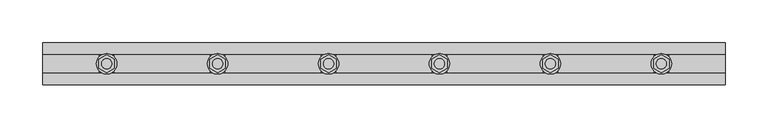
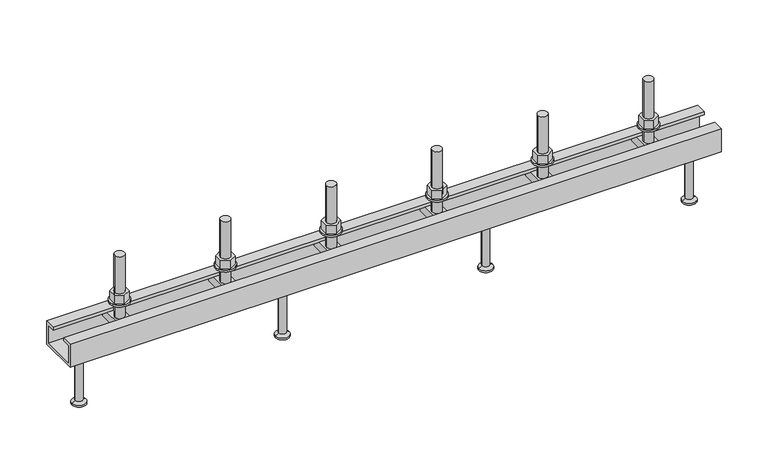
"""IFC4 building model written with IfcOpenShell, lengths in millimetres: fastener geometry, JTA-W JORDAHL® AnchorChannels : JTA-W L=800 mm."""

from ifc_helpers import new_model, si_unit, point, frame, frame_2d, origin, place, context, project, spatial, polyline, circle_curve, trimmed, segment, composite_curve, outline, extrude, source, transform, mapped, element, save
from ifc_brep_helpers import plane_surface, cylinder_surface, revolved_surface, advanced_brep


def fastener_85298e3f(model_context):
    return source(origin(), model_context, "Body", "SolidModel", [
        extrude(outline(polyline([(595.0, -10.3923048), (586.0, -5.1961524), (586.0, 5.1961524), (595.0, 10.3923048), (604.0, 5.1961524), (604.0, -5.1961524), (595.0, -10.3923048)]), holes=[composite_curve([segment(trimmed(circle_curve(frame_2d((595.0, 0.0)), 6.0), [point((589.0, 0.0))], [point((601.0, 0.0))], True, "CARTESIAN"), True, "CONTINUOUS"), segment(trimmed(circle_curve(frame_2d((595.0, 0.0)), 6.0), [point((601.0, 0.0))], [point((589.0, 0.0))], True, "CARTESIAN"), True, "CONTINUOUS")], self_intersect=False)]), frame((0.0, 0.0, 17.5), z_axis=(0.0, 0.0, 1.0), x_axis=(1.0, 0.0, 0.0)), (0.0, 0.0, 1.0), 10.8),
        extrude(outline(composite_curve([segment(trimmed(circle_curve(frame_2d((595.0, 0.0)), 12.0), [point((583.0, 0.0))], [point((607.0, 0.0))], False, "CARTESIAN"), True, "CONTINUOUS"), segment(trimmed(circle_curve(frame_2d((595.0, 0.0)), 12.0), [point((607.0, 0.0))], [point((583.0, 0.0))], False, "CARTESIAN"), True, "CONTINUOUS")], self_intersect=False), holes=[composite_curve([segment(trimmed(circle_curve(frame_2d((595.0, 0.0)), 6.5), [point((588.5, 0.0))], [point((601.5, 0.0))], True, "CARTESIAN"), True, "CONTINUOUS"), segment(trimmed(circle_curve(frame_2d((595.0, 0.0)), 6.5), [point((601.5, 0.0))], [point((588.5, 0.0))], True, "CARTESIAN"), True, "CONTINUOUS")], self_intersect=False)]), frame((0.0, 0.0, 15.0), z_axis=(0.0, 0.0, 1.0), x_axis=(1.0, 0.0, 0.0)), (0.0, 0.0, 1.0), 2.5),
        extrude(outline(polyline([(465.0, -10.3923048), (456.0, -5.1961524), (456.0, 5.1961524), (465.0, 10.3923048), (474.0, 5.1961524), (474.0, -5.1961524), (465.0, -10.3923048)]), holes=[composite_curve([segment(trimmed(circle_curve(frame_2d((465.0, 0.0)), 6.0), [point((459.0, 0.0))], [point((471.0, 0.0))], True, "CARTESIAN"), True, "CONTINUOUS"), segment(trimmed(circle_curve(frame_2d((465.0, 0.0)), 6.0), [point((471.0, 0.0))], [point((459.0, 0.0))], True, "CARTESIAN"), True, "CONTINUOUS")], self_intersect=False)]), frame((0.0, 0.0, 17.5), z_axis=(0.0, 0.0, 1.0), x_axis=(1.0, 0.0, 0.0)), (0.0, 0.0, 1.0), 10.8),
        extrude(outline(composite_curve([segment(trimmed(circle_curve(frame_2d((465.0, 0.0)), 12.0), [point((453.0, 0.0))], [point((477.0, 0.0))], False, "CARTESIAN"), True, "CONTINUOUS"), segment(trimmed(circle_curve(frame_2d((465.0, 0.0)), 12.0), [point((477.0, 0.0))], [point((453.0, 0.0))], False, "CARTESIAN"), True, "CONTINUOUS")], self_intersect=False), holes=[composite_curve([segment(trimmed(circle_curve(frame_2d((465.0, 0.0)), 6.5), [point((458.5, 0.0))], [point((471.5, 0.0))], True, "CARTESIAN"), True, "CONTINUOUS"), segment(trimmed(circle_curve(frame_2d((465.0, 0.0)), 6.5), [point((471.5, 0.0))], [point((458.5, 0.0))], True, "CARTESIAN"), True, "CONTINUOUS")], self_intersect=False)]), frame((0.0, 0.0, 15.0), z_axis=(0.0, 0.0, 1.0), x_axis=(1.0, 0.0, 0.0)), (0.0, 0.0, 1.0), 2.5),
        extrude(outline(polyline([(335.0, -10.3923048), (326.0, -5.1961524), (326.0, 5.1961524), (335.0, 10.3923048), (344.0, 5.1961524), (344.0, -5.1961524), (335.0, -10.3923048)]), holes=[composite_curve([segment(trimmed(circle_curve(frame_2d((335.0, 0.0)), 6.0), [point((329.0, 0.0))], [point((341.0, 0.0))], True, "CARTESIAN"), True, "CONTINUOUS"), segment(trimmed(circle_curve(frame_2d((335.0, 0.0)), 6.0), [point((341.0, 0.0))], [point((329.0, 0.0))], True, "CARTESIAN"), True, "CONTINUOUS")], self_intersect=False)]), frame((0.0, 0.0, 17.5), z_axis=(0.0, 0.0, 1.0), x_axis=(1.0, 0.0, 0.0)), (0.0, 0.0, 1.0), 10.8),
        extrude(outline(composite_curve([segment(trimmed(circle_curve(frame_2d((335.0, 0.0)), 12.0), [point((323.0, 0.0))], [point((347.0, 0.0))], False, "CARTESIAN"), True, "CONTINUOUS"), segment(trimmed(circle_curve(frame_2d((335.0, 0.0)), 12.0), [point((347.0, 0.0))], [point((323.0, 0.0))], False, "CARTESIAN"), True, "CONTINUOUS")], self_intersect=False), holes=[composite_curve([segment(trimmed(circle_curve(frame_2d((335.0, 0.0)), 6.5), [point((328.5, 0.0))], [point((341.5, 0.0))], True, "CARTESIAN"), True, "CONTINUOUS"), segment(trimmed(circle_curve(frame_2d((335.0, 0.0)), 6.5), [point((341.5, 0.0))], [point((328.5, 0.0))], True, "CARTESIAN"), True, "CONTINUOUS")], self_intersect=False)]), frame((0.0, 0.0, 15.0), z_axis=(0.0, 0.0, 1.0), x_axis=(1.0, 0.0, 0.0)), (0.0, 0.0, 1.0), 2.5),
        extrude(outline(polyline([(205.0, -10.3923048), (196.0, -5.1961524), (196.0, 5.1961524), (205.0, 10.3923048), (214.0, 5.1961524), (214.0, -5.1961524), (205.0, -10.3923048)]), holes=[composite_curve([segment(trimmed(circle_curve(frame_2d((205.0, 0.0)), 6.0), [point((199.0, 0.0))], [point((211.0, 0.0))], True, "CARTESIAN"), True, "CONTINUOUS"), segment(trimmed(circle_curve(frame_2d((205.0, 0.0)), 6.0), [point((211.0, 0.0))], [point((199.0, 0.0))], True, "CARTESIAN"), True, "CONTINUOUS")], self_intersect=False)]), frame((0.0, 0.0, 17.5), z_axis=(0.0, 0.0, 1.0), x_axis=(1.0, 0.0, 0.0)), (0.0, 0.0, 1.0), 10.8),
        extrude(outline(composite_curve([segment(trimmed(circle_curve(frame_2d((205.0, 0.0)), 12.0), [point((193.0, 0.0))], [point((217.0, 0.0))], False, "CARTESIAN"), True, "CONTINUOUS"), segment(trimmed(circle_curve(frame_2d((205.0, 0.0)), 12.0), [point((217.0, 0.0))], [point((193.0, 0.0))], False, "CARTESIAN"), True, "CONTINUOUS")], self_intersect=False), holes=[composite_curve([segment(trimmed(circle_curve(frame_2d((205.0, 0.0)), 6.5), [point((198.5, 0.0))], [point((211.5, 0.0))], True, "CARTESIAN"), True, "CONTINUOUS"), segment(trimmed(circle_curve(frame_2d((205.0, 0.0)), 6.5), [point((211.5, 0.0))], [point((198.5, 0.0))], True, "CARTESIAN"), True, "CONTINUOUS")], self_intersect=False)]), frame((0.0, 0.0, 15.0), z_axis=(0.0, 0.0, 1.0), x_axis=(1.0, 0.0, 0.0)), (0.0, 0.0, 1.0), 2.5),
        advanced_brep(
        [(603.5, -20.7, -4.0), (603.5, -20.7, -14.0), (603.5, 20.7, -14.0), (603.5, 20.7, -4.0), (586.5, -20.7, -4.0), (586.5, 20.7, -4.0), (586.5, 20.7, -14.0), (586.5, -20.7, -14.0), (601.0, 0.0, -4.0), (589.0, 0.0, -4.0), (589.0, 0.0, 76.0), (601.0, 0.0, 76.0)],
        [
            (0, 1),
            (1, 2),
            (2, 3),
            (3, 0),
            (4, 5),
            (5, 6),
            (6, 7),
            (7, 4),
            (3, 5),
            (4, 0),
            (8, 9, circle_curve(frame((595.0, 0.0, -4.0), z_axis=(0.0, 0.0, -1.0), x_axis=(1.0, 0.0, 0.0)), 6.0)),
            (9, 8, circle_curve(frame((595.0, 0.0, -4.0), z_axis=(0.0, 0.0, -1.0), x_axis=(1.0, 0.0, 0.0)), 6.0)),
            (2, 6),
            (1, 7),
            (10, 11, circle_curve(frame((595.0, 0.0, 76.0), z_axis=(0.0, 0.0, 1.0), x_axis=(1.0, 0.0, 0.0)), 6.0)),
            (11, 10, circle_curve(frame((595.0, 0.0, 76.0), z_axis=(0.0, 0.0, 1.0), x_axis=(1.0, 0.0, 0.0)), 6.0)),
            (11, 8),
            (9, 10),
        ],
        [
            plane_surface(frame((603.5, 20.7, -4.0), z_axis=(1.0, 0.0, 0.0), x_axis=(0.0, 1.0, 0.0))),
            plane_surface(frame((586.5, 20.7, -4.0), z_axis=(-1.0, 0.0, 0.0), x_axis=(0.0, -1.0, 0.0))),
            plane_surface(frame((603.5, -20.7, -4.0), z_axis=(0.0, 0.0, 1.0), x_axis=(-1.0, 0.0, 0.0))),
            plane_surface(frame((603.5, 20.7, -4.0), z_axis=(0.0, 1.0, 0.0), x_axis=(-1.0, 0.0, 0.0))),
            plane_surface(frame((603.5, 20.7, -14.0), z_axis=(0.0, 0.0, -1.0), x_axis=(-1.0, 0.0, 0.0))),
            plane_surface(frame((603.5, -20.7, -14.0), z_axis=(0.0, -1.0, 0.0), x_axis=(-1.0, 0.0, 0.0))),
            plane_surface(frame((601.0, 0.0, 76.0), z_axis=(0.0, 0.0, 1.0), x_axis=(0.0, -1.0, 0.0))),
            cylinder_surface(frame((595.0, 0.0, -4.0), z_axis=(0.0, 0.0, 1.0), x_axis=(1.0, 0.0, 0.0)), 6.0),
        ],
        [
            (0, [[1, 2, 3, 4]]),
            (1, [[5, 6, 7, 8]]),
            (2, [[9, -5, 10, -4], [11, 12]]),
            (3, [[13, -6, -9, -3]]),
            (4, [[14, -7, -13, -2]]),
            (5, [[-10, -8, -14, -1]]),
            (6, [[15, 16]]),
            (7, [[17, -12, 18, -16]]),
            (7, [[-18, -11, -17, -15]]),
        ],
    ),
        advanced_brep(
        [(473.5, -20.7, -4.0), (473.5, -20.7, -14.0), (473.5, 20.7, -14.0), (473.5, 20.7, -4.0), (456.5, -20.7, -4.0), (456.5, 20.7, -4.0), (456.5, 20.7, -14.0), (456.5, -20.7, -14.0), (471.0, 0.0, -4.0), (459.0, 0.0, -4.0), (459.0, 0.0, 76.0), (471.0, 0.0, 76.0)],
        [
            (0, 1),
            (1, 2),
            (2, 3),
            (3, 0),
            (4, 5),
            (5, 6),
            (6, 7),
            (7, 4),
            (3, 5),
            (4, 0),
            (8, 9, circle_curve(frame((465.0, 0.0, -4.0), z_axis=(0.0, 0.0, -1.0), x_axis=(1.0, 0.0, 0.0)), 6.0)),
            (9, 8, circle_curve(frame((465.0, 0.0, -4.0), z_axis=(0.0, 0.0, -1.0), x_axis=(1.0, 0.0, 0.0)), 6.0)),
            (2, 6),
            (1, 7),
            (10, 11, circle_curve(frame((465.0, 0.0, 76.0), z_axis=(0.0, 0.0, 1.0), x_axis=(1.0, 0.0, 0.0)), 6.0)),
            (11, 10, circle_curve(frame((465.0, 0.0, 76.0), z_axis=(0.0, 0.0, 1.0), x_axis=(1.0, 0.0, 0.0)), 6.0)),
            (11, 8),
            (9, 10),
        ],
        [
            plane_surface(frame((473.5, 20.7, -4.0), z_axis=(1.0, 0.0, 0.0), x_axis=(0.0, 1.0, 0.0))),
            plane_surface(frame((456.5, 20.7, -4.0), z_axis=(-1.0, 0.0, 0.0), x_axis=(0.0, -1.0, 0.0))),
            plane_surface(frame((473.5, -20.7, -4.0), z_axis=(0.0, 0.0, 1.0), x_axis=(-1.0, 0.0, 0.0))),
            plane_surface(frame((473.5, 20.7, -4.0), z_axis=(0.0, 1.0, 0.0), x_axis=(-1.0, 0.0, 0.0))),
            plane_surface(frame((473.5, 20.7, -14.0), z_axis=(0.0, 0.0, -1.0), x_axis=(-1.0, 0.0, 0.0))),
            plane_surface(frame((473.5, -20.7, -14.0), z_axis=(0.0, -1.0, 0.0), x_axis=(-1.0, 0.0, 0.0))),
            plane_surface(frame((471.0, 0.0, 76.0), z_axis=(0.0, 0.0, 1.0), x_axis=(0.0, -1.0, 0.0))),
            cylinder_surface(frame((465.0, 0.0, -4.0), z_axis=(0.0, 0.0, 1.0), x_axis=(1.0, 0.0, 0.0)), 6.0),
        ],
        [
            (0, [[1, 2, 3, 4]]),
            (1, [[5, 6, 7, 8]]),
            (2, [[9, -5, 10, -4], [11, 12]]),
            (3, [[13, -6, -9, -3]]),
            (4, [[14, -7, -13, -2]]),
            (5, [[-10, -8, -14, -1]]),
            (6, [[15, 16]]),
            (7, [[17, -12, 18, -16]]),
            (7, [[-18, -11, -17, -15]]),
        ],
    ),
        advanced_brep(
        [(343.5, -20.7, -4.0), (343.5, -20.7, -14.0), (343.5, 20.7, -14.0), (343.5, 20.7, -4.0), (326.5, -20.7, -4.0), (326.5, 20.7, -4.0), (326.5, 20.7, -14.0), (326.5, -20.7, -14.0), (341.0, 0.0, -4.0), (329.0, 0.0, -4.0), (329.0, 0.0, 76.0), (341.0, 0.0, 76.0)],
        [
            (0, 1),
            (1, 2),
            (2, 3),
            (3, 0),
            (4, 5),
            (5, 6),
            (6, 7),
            (7, 4),
            (3, 5),
            (4, 0),
            (8, 9, circle_curve(frame((335.0, 0.0, -4.0), z_axis=(0.0, 0.0, -1.0), x_axis=(1.0, 0.0, 0.0)), 6.0)),
            (9, 8, circle_curve(frame((335.0, 0.0, -4.0), z_axis=(0.0, 0.0, -1.0), x_axis=(1.0, 0.0, 0.0)), 6.0)),
            (2, 6),
            (1, 7),
            (10, 11, circle_curve(frame((335.0, 0.0, 76.0), z_axis=(0.0, 0.0, 1.0), x_axis=(1.0, 0.0, 0.0)), 6.0)),
            (11, 10, circle_curve(frame((335.0, 0.0, 76.0), z_axis=(0.0, 0.0, 1.0), x_axis=(1.0, 0.0, 0.0)), 6.0)),
            (11, 8),
            (9, 10),
        ],
        [
            plane_surface(frame((343.5, 20.7, -4.0), z_axis=(1.0, 0.0, 0.0), x_axis=(0.0, 1.0, 0.0))),
            plane_surface(frame((326.5, 20.7, -4.0), z_axis=(-1.0, 0.0, 0.0), x_axis=(0.0, -1.0, 0.0))),
            plane_surface(frame((343.5, -20.7, -4.0), z_axis=(0.0, 0.0, 1.0), x_axis=(-1.0, 0.0, 0.0))),
            plane_surface(frame((343.5, 20.7, -4.0), z_axis=(0.0, 1.0, 0.0), x_axis=(-1.0, 0.0, 0.0))),
            plane_surface(frame((343.5, 20.7, -14.0), z_axis=(0.0, 0.0, -1.0), x_axis=(-1.0, 0.0, 0.0))),
            plane_surface(frame((343.5, -20.7, -14.0), z_axis=(0.0, -1.0, 0.0), x_axis=(-1.0, 0.0, 0.0))),
            plane_surface(frame((341.0, 0.0, 76.0), z_axis=(0.0, 0.0, 1.0), x_axis=(0.0, -1.0, 0.0))),
            cylinder_surface(frame((335.0, 0.0, -4.0), z_axis=(0.0, 0.0, 1.0), x_axis=(1.0, 0.0, 0.0)), 6.0),
        ],
        [
            (0, [[1, 2, 3, 4]]),
            (1, [[5, 6, 7, 8]]),
            (2, [[9, -5, 10, -4], [11, 12]]),
            (3, [[13, -6, -9, -3]]),
            (4, [[14, -7, -13, -2]]),
            (5, [[-10, -8, -14, -1]]),
            (6, [[15, 16]]),
            (7, [[17, -12, 18, -16]]),
            (7, [[-18, -11, -17, -15]]),
        ],
    ),
        advanced_brep(
        [(213.5, -20.7, -4.0), (213.5, -20.7, -14.0), (213.5, 20.7, -14.0), (213.5, 20.7, -4.0), (196.5, -20.7, -4.0), (196.5, 20.7, -4.0), (196.5, 20.7, -14.0), (196.5, -20.7, -14.0), (211.0, 0.0, -4.0), (199.0, 0.0, -4.0), (199.0, 0.0, 76.0), (211.0, 0.0, 76.0)],
        [
            (0, 1),
            (1, 2),
            (2, 3),
            (3, 0),
            (4, 5),
            (5, 6),
            (6, 7),
            (7, 4),
            (3, 5),
            (4, 0),
            (8, 9, circle_curve(frame((205.0, 0.0, -4.0), z_axis=(0.0, 0.0, -1.0), x_axis=(1.0, 0.0, 0.0)), 6.0)),
            (9, 8, circle_curve(frame((205.0, 0.0, -4.0), z_axis=(0.0, 0.0, -1.0), x_axis=(1.0, 0.0, 0.0)), 6.0)),
            (2, 6),
            (1, 7),
            (10, 11, circle_curve(frame((205.0, 0.0, 76.0), z_axis=(0.0, 0.0, 1.0), x_axis=(1.0, 0.0, 0.0)), 6.0)),
            (11, 10, circle_curve(frame((205.0, 0.0, 76.0), z_axis=(0.0, 0.0, 1.0), x_axis=(1.0, 0.0, 0.0)), 6.0)),
            (11, 8),
            (9, 10),
        ],
        [
            plane_surface(frame((213.5, 20.7, -4.0), z_axis=(1.0, 0.0, 0.0), x_axis=(0.0, 1.0, 0.0))),
            plane_surface(frame((196.5, 20.7, -4.0), z_axis=(-1.0, 0.0, 0.0), x_axis=(0.0, -1.0, 0.0))),
            plane_surface(frame((213.5, -20.7, -4.0), z_axis=(0.0, 0.0, 1.0), x_axis=(-1.0, 0.0, 0.0))),
            plane_surface(frame((213.5, 20.7, -4.0), z_axis=(0.0, 1.0, 0.0), x_axis=(-1.0, 0.0, 0.0))),
            plane_surface(frame((213.5, 20.7, -14.0), z_axis=(0.0, 0.0, -1.0), x_axis=(-1.0, 0.0, 0.0))),
            plane_surface(frame((213.5, -20.7, -14.0), z_axis=(0.0, -1.0, 0.0), x_axis=(-1.0, 0.0, 0.0))),
            plane_surface(frame((211.0, 0.0, 76.0), z_axis=(0.0, 0.0, 1.0), x_axis=(0.0, -1.0, 0.0))),
            cylinder_surface(frame((205.0, 0.0, -4.0), z_axis=(0.0, 0.0, 1.0), x_axis=(1.0, 0.0, 0.0)), 6.0),
        ],
        [
            (0, [[1, 2, 3, 4]]),
            (1, [[5, 6, 7, 8]]),
            (2, [[9, -5, 10, -4], [11, 12]]),
            (3, [[13, -6, -9, -3]]),
            (4, [[14, -7, -13, -2]]),
            (5, [[-10, -8, -14, -1]]),
            (6, [[15, 16]]),
            (7, [[17, -12, 18, -16]]),
            (7, [[-18, -11, -17, -15]]),
        ],
    ),
        advanced_brep(
        [(525.0, 0.0, -30.0), (511.5, 0.0, -30.0), (538.5, 0.0, -30.0), (516.5, 0.0, -100.0), (525.0, 0.0, -100.0), (533.5, 0.0, -100.0), (516.5, 0.0, -98.0), (533.5, 0.0, -98.0), (520.5, 0.0, -95.6905989), (529.5, 0.0, -95.6905989), (520.5, 0.0, -32.5), (529.5, 0.0, -32.5)],
        [
            (0, 1),
            (1, 2, circle_curve(frame((525.0, 0.0, -30.0), z_axis=(0.0, 0.0, 1.0), x_axis=(1.0, 0.0, 0.0)), 13.5)),
            (2, 0),
            (2, 1, circle_curve(frame((525.0, 0.0, -30.0), z_axis=(0.0, 0.0, 1.0), x_axis=(1.0, 0.0, 0.0)), 13.5)),
            (3, 4),
            (4, 5),
            (5, 3, circle_curve(frame((525.0, 0.0, -100.0), z_axis=(0.0, 0.0, -1.0), x_axis=(1.0, 0.0, 0.0)), 8.5)),
            (3, 5, circle_curve(frame((525.0, 0.0, -100.0), z_axis=(0.0, 0.0, -1.0), x_axis=(1.0, 0.0, 0.0)), 8.5)),
            (6, 3),
            (5, 7),
            (7, 6, circle_curve(frame((525.0, 0.0, -98.0), z_axis=(0.0, 0.0, -1.0), x_axis=(1.0, 0.0, 0.0)), 8.5)),
            (6, 7, circle_curve(frame((525.0, 0.0, -98.0), z_axis=(0.0, 0.0, -1.0), x_axis=(1.0, 0.0, 0.0)), 8.5)),
            (8, 6),
            (7, 9),
            (9, 8, circle_curve(frame((525.0, 0.0, -95.6905989), z_axis=(0.0, 0.0, -1.0), x_axis=(1.0, 0.0, 0.0)), 4.5)),
            (8, 9, circle_curve(frame((525.0, 0.0, -95.6905989), z_axis=(0.0, 0.0, -1.0), x_axis=(1.0, 0.0, 0.0)), 4.5)),
            (10, 8),
            (9, 11),
            (11, 10, circle_curve(frame((525.0, 0.0, -32.5), z_axis=(0.0, 0.0, -1.0), x_axis=(1.0, 0.0, 0.0)), 4.5)),
            (10, 11, circle_curve(frame((525.0, 0.0, -32.5), z_axis=(0.0, 0.0, -1.0), x_axis=(1.0, 0.0, 0.0)), 4.5)),
            (1, 10),
            (11, 2),
        ],
        [
            plane_surface(frame((525.0, 0.0, -30.0), z_axis=(0.0, 0.0, 1.0), x_axis=(1.0, 0.0, 0.0))),
            plane_surface(frame((525.0, 0.0, -100.0), z_axis=(0.0, 0.0, -1.0), x_axis=(1.0, 0.0, 0.0))),
            cylinder_surface(frame((525.0, 0.0, 2284.3150031), z_axis=(0.0, 0.0, 1.0), x_axis=(1.0, 0.0, 0.0)), 8.5),
            revolved_surface(polyline([(533.5, 0.0, -98.0), (529.5, 0.0, -95.6905989)]), (525.0, 0.0, 2284.3150031), (0.0, 0.0, 1.0)),
            cylinder_surface(frame((525.0, 0.0, 2284.3150031), z_axis=(0.0, 0.0, 1.0), x_axis=(1.0, 0.0, 0.0)), 4.5),
            revolved_surface(polyline([(529.5, 0.0, -32.5), (538.5, 0.0, -30.0)]), (525.0, 0.0, 2284.3150031), (0.0, 0.0, 1.0)),
        ],
        [
            (0, [[1, 2, 3]]),
            (0, [[-3, 4, -1]]),
            (1, [[5, 6, 7]]),
            (1, [[-6, -5, 8]]),
            (2, [[9, -7, 10, 11]]),
            (2, [[-10, -8, -9, 12]]),
            (3, [[13, -11, 14, 15]]),
            (3, [[-14, -12, -13, 16]]),
            (4, [[17, -15, 18, 19]]),
            (4, [[-18, -16, -17, 20]]),
            (5, [[21, -19, 22, -2]]),
            (5, [[-22, -20, -21, -4]]),
        ],
    ),
        advanced_brep(
        [(275.0, 0.0, -30.0), (261.5, 0.0, -30.0), (288.5, 0.0, -30.0), (266.5, 0.0, -100.0), (275.0, 0.0, -100.0), (283.5, 0.0, -100.0), (266.5, 0.0, -98.0), (283.5, 0.0, -98.0), (270.5, 0.0, -95.6905989), (279.5, 0.0, -95.6905989), (270.5, 0.0, -32.5), (279.5, 0.0, -32.5)],
        [
            (0, 1),
            (1, 2, circle_curve(frame((275.0, 0.0, -30.0), z_axis=(0.0, 0.0, 1.0), x_axis=(1.0, 0.0, 0.0)), 13.5)),
            (2, 0),
            (2, 1, circle_curve(frame((275.0, 0.0, -30.0), z_axis=(0.0, 0.0, 1.0), x_axis=(1.0, 0.0, 0.0)), 13.5)),
            (3, 4),
            (4, 5),
            (5, 3, circle_curve(frame((275.0, 0.0, -100.0), z_axis=(0.0, 0.0, -1.0), x_axis=(1.0, 0.0, 0.0)), 8.5)),
            (3, 5, circle_curve(frame((275.0, 0.0, -100.0), z_axis=(0.0, 0.0, -1.0), x_axis=(1.0, 0.0, 0.0)), 8.5)),
            (6, 3),
            (5, 7),
            (7, 6, circle_curve(frame((275.0, 0.0, -98.0), z_axis=(0.0, 0.0, -1.0), x_axis=(1.0, 0.0, 0.0)), 8.5)),
            (6, 7, circle_curve(frame((275.0, 0.0, -98.0), z_axis=(0.0, 0.0, -1.0), x_axis=(1.0, 0.0, 0.0)), 8.5)),
            (8, 6),
            (7, 9),
            (9, 8, circle_curve(frame((275.0, 0.0, -95.6905989), z_axis=(0.0, 0.0, -1.0), x_axis=(1.0, 0.0, 0.0)), 4.5)),
            (8, 9, circle_curve(frame((275.0, 0.0, -95.6905989), z_axis=(0.0, 0.0, -1.0), x_axis=(1.0, 0.0, 0.0)), 4.5)),
            (10, 8),
            (9, 11),
            (11, 10, circle_curve(frame((275.0, 0.0, -32.5), z_axis=(0.0, 0.0, -1.0), x_axis=(1.0, 0.0, 0.0)), 4.5)),
            (10, 11, circle_curve(frame((275.0, 0.0, -32.5), z_axis=(0.0, 0.0, -1.0), x_axis=(1.0, 0.0, 0.0)), 4.5)),
            (1, 10),
            (11, 2),
        ],
        [
            plane_surface(frame((275.0, 0.0, -30.0), z_axis=(0.0, 0.0, 1.0), x_axis=(1.0, 0.0, 0.0))),
            plane_surface(frame((275.0, 0.0, -100.0), z_axis=(0.0, 0.0, -1.0), x_axis=(1.0, 0.0, 0.0))),
            cylinder_surface(frame((275.0, 0.0, 2284.3150031), z_axis=(0.0, 0.0, 1.0), x_axis=(1.0, 0.0, 0.0)), 8.5),
            revolved_surface(polyline([(283.5, 0.0, -98.0), (279.5, 0.0, -95.6905989)]), (275.0, 0.0, 2284.3150031), (0.0, 0.0, 1.0)),
            cylinder_surface(frame((275.0, 0.0, 2284.3150031), z_axis=(0.0, 0.0, 1.0), x_axis=(1.0, 0.0, 0.0)), 4.5),
            revolved_surface(polyline([(279.5, 0.0, -32.5), (288.5, 0.0, -30.0)]), (275.0, 0.0, 2284.3150031), (0.0, 0.0, 1.0)),
        ],
        [
            (0, [[1, 2, 3]]),
            (0, [[-3, 4, -1]]),
            (1, [[5, 6, 7]]),
            (1, [[-6, -5, 8]]),
            (2, [[9, -7, 10, 11]]),
            (2, [[-10, -8, -9, 12]]),
            (3, [[13, -11, 14, 15]]),
            (3, [[-14, -12, -13, 16]]),
            (4, [[17, -15, 18, 19]]),
            (4, [[-18, -16, -17, 20]]),
            (5, [[21, -19, 22, -2]]),
            (5, [[-22, -20, -21, -4]]),
        ],
    ),
        extrude(outline(polyline([(725.0, -10.3923048), (716.0, -5.1961524), (716.0, 5.1961524), (725.0, 10.3923048), (734.0, 5.1961524), (734.0, -5.1961524), (725.0, -10.3923048)]), holes=[composite_curve([segment(trimmed(circle_curve(frame_2d((725.0, 0.0)), 6.0), [point((719.0, 0.0))], [point((731.0, 0.0))], True, "CARTESIAN"), True, "CONTINUOUS"), segment(trimmed(circle_curve(frame_2d((725.0, 0.0)), 6.0), [point((731.0, 0.0))], [point((719.0, 0.0))], True, "CARTESIAN"), True, "CONTINUOUS")], self_intersect=False)]), frame((0.0, 0.0, 17.5), z_axis=(0.0, 0.0, 1.0), x_axis=(1.0, 0.0, 0.0)), (0.0, 0.0, 1.0), 10.8),
        extrude(outline(composite_curve([segment(trimmed(circle_curve(frame_2d((725.0, 0.0)), 12.0), [point((713.0, 0.0))], [point((737.0, 0.0))], False, "CARTESIAN"), True, "CONTINUOUS"), segment(trimmed(circle_curve(frame_2d((725.0, 0.0)), 12.0), [point((737.0, 0.0))], [point((713.0, 0.0))], False, "CARTESIAN"), True, "CONTINUOUS")], self_intersect=False), holes=[composite_curve([segment(trimmed(circle_curve(frame_2d((725.0, 0.0)), 6.5), [point((718.5, 0.0))], [point((731.5, 0.0))], True, "CARTESIAN"), True, "CONTINUOUS"), segment(trimmed(circle_curve(frame_2d((725.0, 0.0)), 6.5), [point((731.5, 0.0))], [point((718.5, 0.0))], True, "CARTESIAN"), True, "CONTINUOUS")], self_intersect=False)]), frame((0.0, 0.0, 15.0), z_axis=(0.0, 0.0, 1.0), x_axis=(1.0, 0.0, 0.0)), (0.0, 0.0, 1.0), 2.5),
        extrude(outline(polyline([(75.0, -10.3923048), (66.0, -5.1961524), (66.0, 5.1961524), (75.0, 10.3923048), (84.0, 5.1961524), (84.0, -5.1961524), (75.0, -10.3923048)]), holes=[composite_curve([segment(trimmed(circle_curve(frame_2d((75.0, 0.0)), 6.0), [point((69.0, 0.0))], [point((81.0, 0.0))], True, "CARTESIAN"), True, "CONTINUOUS"), segment(trimmed(circle_curve(frame_2d((75.0, 0.0)), 6.0), [point((81.0, 0.0))], [point((69.0, 0.0))], True, "CARTESIAN"), True, "CONTINUOUS")], self_intersect=False)]), frame((0.0, 0.0, 17.5), z_axis=(0.0, 0.0, 1.0), x_axis=(1.0, 0.0, 0.0)), (0.0, 0.0, 1.0), 10.8),
        extrude(outline(composite_curve([segment(trimmed(circle_curve(frame_2d((75.0, 0.0)), 12.0), [point((63.0, 0.0))], [point((87.0, 0.0))], False, "CARTESIAN"), True, "CONTINUOUS"), segment(trimmed(circle_curve(frame_2d((75.0, 0.0)), 12.0), [point((87.0, 0.0))], [point((63.0, 0.0))], False, "CARTESIAN"), True, "CONTINUOUS")], self_intersect=False), holes=[composite_curve([segment(trimmed(circle_curve(frame_2d((75.0, 0.0)), 6.5), [point((68.5, 0.0))], [point((81.5, 0.0))], True, "CARTESIAN"), True, "CONTINUOUS"), segment(trimmed(circle_curve(frame_2d((75.0, 0.0)), 6.5), [point((81.5, 0.0))], [point((68.5, 0.0))], True, "CARTESIAN"), True, "CONTINUOUS")], self_intersect=False)]), frame((0.0, 0.0, 15.0), z_axis=(0.0, 0.0, 1.0), x_axis=(1.0, 0.0, 0.0)), (0.0, 0.0, 1.0), 2.5),
        advanced_brep(
        [(733.5, -20.7, -4.0), (733.5, -20.7, -14.0), (733.5, 20.7, -14.0), (733.5, 20.7, -4.0), (716.5, -20.7, -4.0), (716.5, 20.7, -4.0), (716.5, 20.7, -14.0), (716.5, -20.7, -14.0), (731.0, 0.0, -4.0), (719.0, 0.0, -4.0), (719.0, 0.0, 76.0), (731.0, 0.0, 76.0)],
        [
            (0, 1),
            (1, 2),
            (2, 3),
            (3, 0),
            (4, 5),
            (5, 6),
            (6, 7),
            (7, 4),
            (3, 5),
            (4, 0),
            (8, 9, circle_curve(frame((725.0, 0.0, -4.0), z_axis=(0.0, 0.0, -1.0), x_axis=(1.0, 0.0, 0.0)), 6.0)),
            (9, 8, circle_curve(frame((725.0, 0.0, -4.0), z_axis=(0.0, 0.0, -1.0), x_axis=(1.0, 0.0, 0.0)), 6.0)),
            (2, 6),
            (1, 7),
            (10, 11, circle_curve(frame((725.0, 0.0, 76.0), z_axis=(0.0, 0.0, 1.0), x_axis=(1.0, 0.0, 0.0)), 6.0)),
            (11, 10, circle_curve(frame((725.0, 0.0, 76.0), z_axis=(0.0, 0.0, 1.0), x_axis=(1.0, 0.0, 0.0)), 6.0)),
            (11, 8),
            (9, 10),
        ],
        [
            plane_surface(frame((733.5, 20.7, -4.0), z_axis=(1.0, 0.0, 0.0), x_axis=(0.0, 1.0, 0.0))),
            plane_surface(frame((716.5, 20.7, -4.0), z_axis=(-1.0, 0.0, 0.0), x_axis=(0.0, -1.0, 0.0))),
            plane_surface(frame((733.5, -20.7, -4.0), z_axis=(0.0, 0.0, 1.0), x_axis=(-1.0, 0.0, 0.0))),
            plane_surface(frame((733.5, 20.7, -4.0), z_axis=(0.0, 1.0, 0.0), x_axis=(-1.0, 0.0, 0.0))),
            plane_surface(frame((733.5, 20.7, -14.0), z_axis=(0.0, 0.0, -1.0), x_axis=(-1.0, 0.0, 0.0))),
            plane_surface(frame((733.5, -20.7, -14.0), z_axis=(0.0, -1.0, 0.0), x_axis=(-1.0, 0.0, 0.0))),
            plane_surface(frame((731.0, 0.0, 76.0), z_axis=(0.0, 0.0, 1.0), x_axis=(0.0, -1.0, 0.0))),
            cylinder_surface(frame((725.0, 0.0, -4.0), z_axis=(0.0, 0.0, 1.0), x_axis=(1.0, 0.0, 0.0)), 6.0),
        ],
        [
            (0, [[1, 2, 3, 4]]),
            (1, [[5, 6, 7, 8]]),
            (2, [[9, -5, 10, -4], [11, 12]]),
            (3, [[13, -6, -9, -3]]),
            (4, [[14, -7, -13, -2]]),
            (5, [[-10, -8, -14, -1]]),
            (6, [[15, 16]]),
            (7, [[17, -12, 18, -16]]),
            (7, [[-18, -11, -17, -15]]),
        ],
    ),
        advanced_brep(
        [(83.5, -20.7, -4.0), (83.5, -20.7, -14.0), (83.5, 20.7, -14.0), (83.5, 20.7, -4.0), (66.5, -20.7, -4.0), (66.5, 20.7, -4.0), (66.5, 20.7, -14.0), (66.5, -20.7, -14.0), (81.0, 0.0, -4.0), (69.0, 0.0, -4.0), (69.0, 0.0, 76.0), (81.0, 0.0, 76.0)],
        [
            (0, 1),
            (1, 2),
            (2, 3),
            (3, 0),
            (4, 5),
            (5, 6),
            (6, 7),
            (7, 4),
            (3, 5),
            (4, 0),
            (8, 9, circle_curve(frame((75.0, 0.0, -4.0), z_axis=(0.0, 0.0, -1.0), x_axis=(1.0, 0.0, 0.0)), 6.0)),
            (9, 8, circle_curve(frame((75.0, 0.0, -4.0), z_axis=(0.0, 0.0, -1.0), x_axis=(1.0, 0.0, 0.0)), 6.0)),
            (2, 6),
            (1, 7),
            (10, 11, circle_curve(frame((75.0, 0.0, 76.0), z_axis=(0.0, 0.0, 1.0), x_axis=(1.0, 0.0, 0.0)), 6.0)),
            (11, 10, circle_curve(frame((75.0, 0.0, 76.0), z_axis=(0.0, 0.0, 1.0), x_axis=(1.0, 0.0, 0.0)), 6.0)),
            (11, 8),
            (9, 10),
        ],
        [
            plane_surface(frame((83.5, 20.7, -4.0), z_axis=(1.0, 0.0, 0.0), x_axis=(0.0, 1.0, 0.0))),
            plane_surface(frame((66.5, 20.7, -4.0), z_axis=(-1.0, 0.0, 0.0), x_axis=(0.0, -1.0, 0.0))),
            plane_surface(frame((83.5, -20.7, -4.0), z_axis=(0.0, 0.0, 1.0), x_axis=(-1.0, 0.0, 0.0))),
            plane_surface(frame((83.5, 20.7, -4.0), z_axis=(0.0, 1.0, 0.0), x_axis=(-1.0, 0.0, 0.0))),
            plane_surface(frame((83.5, 20.7, -14.0), z_axis=(0.0, 0.0, -1.0), x_axis=(-1.0, 0.0, 0.0))),
            plane_surface(frame((83.5, -20.7, -14.0), z_axis=(0.0, -1.0, 0.0), x_axis=(-1.0, 0.0, 0.0))),
            plane_surface(frame((81.0, 0.0, 76.0), z_axis=(0.0, 0.0, 1.0), x_axis=(0.0, -1.0, 0.0))),
            cylinder_surface(frame((75.0, 0.0, -4.0), z_axis=(0.0, 0.0, 1.0), x_axis=(1.0, 0.0, 0.0)), 6.0),
        ],
        [
            (0, [[1, 2, 3, 4]]),
            (1, [[5, 6, 7, 8]]),
            (2, [[9, -5, 10, -4], [11, 12]]),
            (3, [[13, -6, -9, -3]]),
            (4, [[14, -7, -13, -2]]),
            (5, [[-10, -8, -14, -1]]),
            (6, [[15, 16]]),
            (7, [[17, -12, 18, -16]]),
            (7, [[-18, -11, -17, -15]]),
        ],
    ),
        advanced_brep(
        [(775.0, 0.0, -30.0), (761.5, 0.0, -30.0), (788.5, 0.0, -30.0), (766.5, 0.0, -100.0), (775.0, 0.0, -100.0), (783.5, 0.0, -100.0), (766.5, 0.0, -98.0), (783.5, 0.0, -98.0), (770.5, 0.0, -95.6905989), (779.5, 0.0, -95.6905989), (770.5, 0.0, -32.5), (779.5, 0.0, -32.5)],
        [
            (0, 1),
            (1, 2, circle_curve(frame((775.0, 0.0, -30.0), z_axis=(0.0, 0.0, 1.0), x_axis=(1.0, 0.0, 0.0)), 13.5)),
            (2, 0),
            (2, 1, circle_curve(frame((775.0, 0.0, -30.0), z_axis=(0.0, 0.0, 1.0), x_axis=(1.0, 0.0, 0.0)), 13.5)),
            (3, 4),
            (4, 5),
            (5, 3, circle_curve(frame((775.0, 0.0, -100.0), z_axis=(0.0, 0.0, -1.0), x_axis=(1.0, 0.0, 0.0)), 8.5)),
            (3, 5, circle_curve(frame((775.0, 0.0, -100.0), z_axis=(0.0, 0.0, -1.0), x_axis=(1.0, 0.0, 0.0)), 8.5)),
            (6, 3),
            (5, 7),
            (7, 6, circle_curve(frame((775.0, 0.0, -98.0), z_axis=(0.0, 0.0, -1.0), x_axis=(1.0, 0.0, 0.0)), 8.5)),
            (6, 7, circle_curve(frame((775.0, 0.0, -98.0), z_axis=(0.0, 0.0, -1.0), x_axis=(1.0, 0.0, 0.0)), 8.5)),
            (8, 6),
            (7, 9),
            (9, 8, circle_curve(frame((775.0, 0.0, -95.6905989), z_axis=(0.0, 0.0, -1.0), x_axis=(1.0, 0.0, 0.0)), 4.5)),
            (8, 9, circle_curve(frame((775.0, 0.0, -95.6905989), z_axis=(0.0, 0.0, -1.0), x_axis=(1.0, 0.0, 0.0)), 4.5)),
            (10, 8),
            (9, 11),
            (11, 10, circle_curve(frame((775.0, 0.0, -32.5), z_axis=(0.0, 0.0, -1.0), x_axis=(1.0, 0.0, 0.0)), 4.5)),
            (10, 11, circle_curve(frame((775.0, 0.0, -32.5), z_axis=(0.0, 0.0, -1.0), x_axis=(1.0, 0.0, 0.0)), 4.5)),
            (1, 10),
            (11, 2),
        ],
        [
            plane_surface(frame((775.0, 0.0, -30.0), z_axis=(0.0, 0.0, 1.0), x_axis=(1.0, 0.0, 0.0))),
            plane_surface(frame((775.0, 0.0, -100.0), z_axis=(0.0, 0.0, -1.0), x_axis=(1.0, 0.0, 0.0))),
            cylinder_surface(frame((775.0, 0.0, 2284.3150031), z_axis=(0.0, 0.0, 1.0), x_axis=(1.0, 0.0, 0.0)), 8.5),
            revolved_surface(polyline([(783.5, 0.0, -98.0), (779.5, 0.0, -95.6905989)]), (775.0, 0.0, 2284.3150031), (0.0, 0.0, 1.0)),
            cylinder_surface(frame((775.0, 0.0, 2284.3150031), z_axis=(0.0, 0.0, 1.0), x_axis=(1.0, 0.0, 0.0)), 4.5),
            revolved_surface(polyline([(779.5, 0.0, -32.5), (788.5, 0.0, -30.0)]), (775.0, 0.0, 2284.3150031), (0.0, 0.0, 1.0)),
        ],
        [
            (0, [[1, 2, 3]]),
            (0, [[-3, 4, -1]]),
            (1, [[5, 6, 7]]),
            (1, [[-6, -5, 8]]),
            (2, [[9, -7, 10, 11]]),
            (2, [[-10, -8, -9, 12]]),
            (3, [[13, -11, 14, 15]]),
            (3, [[-14, -12, -13, 16]]),
            (4, [[17, -15, 18, 19]]),
            (4, [[-18, -16, -17, 20]]),
            (5, [[21, -19, 22, -2]]),
            (5, [[-22, -20, -21, -4]]),
        ],
    ),
        advanced_brep(
        [(25.0, 0.0, -30.0), (11.5, 0.0, -30.0), (38.5, 0.0, -30.0), (16.5, 0.0, -100.0), (25.0, 0.0, -100.0), (33.5, 0.0, -100.0), (16.5, 0.0, -98.0), (33.5, 0.0, -98.0), (20.5, 0.0, -95.6905989), (29.5, 0.0, -95.6905989), (20.5, 0.0, -32.5), (29.5, 0.0, -32.5)],
        [
            (0, 1),
            (1, 2, circle_curve(frame((25.0, 0.0, -30.0), z_axis=(0.0, 0.0, 1.0), x_axis=(1.0, 0.0, 0.0)), 13.5)),
            (2, 0),
            (2, 1, circle_curve(frame((25.0, 0.0, -30.0), z_axis=(0.0, 0.0, 1.0), x_axis=(1.0, 0.0, 0.0)), 13.5)),
            (3, 4),
            (4, 5),
            (5, 3, circle_curve(frame((25.0, 0.0, -100.0), z_axis=(0.0, 0.0, -1.0), x_axis=(1.0, 0.0, 0.0)), 8.5)),
            (3, 5, circle_curve(frame((25.0, 0.0, -100.0), z_axis=(0.0, 0.0, -1.0), x_axis=(1.0, 0.0, 0.0)), 8.5)),
            (6, 3),
            (5, 7),
            (7, 6, circle_curve(frame((25.0, 0.0, -98.0), z_axis=(0.0, 0.0, -1.0), x_axis=(1.0, 0.0, 0.0)), 8.5)),
            (6, 7, circle_curve(frame((25.0, 0.0, -98.0), z_axis=(0.0, 0.0, -1.0), x_axis=(1.0, 0.0, 0.0)), 8.5)),
            (8, 6),
            (7, 9),
            (9, 8, circle_curve(frame((25.0, 0.0, -95.6905989), z_axis=(0.0, 0.0, -1.0), x_axis=(1.0, 0.0, 0.0)), 4.5)),
            (8, 9, circle_curve(frame((25.0, 0.0, -95.6905989), z_axis=(0.0, 0.0, -1.0), x_axis=(1.0, 0.0, 0.0)), 4.5)),
            (10, 8),
            (9, 11),
            (11, 10, circle_curve(frame((25.0, 0.0, -32.5), z_axis=(0.0, 0.0, -1.0), x_axis=(1.0, 0.0, 0.0)), 4.5)),
            (10, 11, circle_curve(frame((25.0, 0.0, -32.5), z_axis=(0.0, 0.0, -1.0), x_axis=(1.0, 0.0, 0.0)), 4.5)),
            (1, 10),
            (11, 2),
        ],
        [
            plane_surface(frame((25.0, 0.0, -30.0), z_axis=(0.0, 0.0, 1.0), x_axis=(1.0, 0.0, 0.0))),
            plane_surface(frame((25.0, 0.0, -100.0), z_axis=(0.0, 0.0, -1.0), x_axis=(1.0, 0.0, 0.0))),
            cylinder_surface(frame((25.0, 0.0, 2284.3150031), z_axis=(0.0, 0.0, 1.0), x_axis=(1.0, 0.0, 0.0)), 8.5),
            revolved_surface(polyline([(33.5, 0.0, -98.0), (29.5, 0.0, -95.6905989)]), (25.0, 0.0, 2284.3150031), (0.0, 0.0, 1.0)),
            cylinder_surface(frame((25.0, 0.0, 2284.3150031), z_axis=(0.0, 0.0, 1.0), x_axis=(1.0, 0.0, 0.0)), 4.5),
            revolved_surface(polyline([(29.5, 0.0, -32.5), (38.5, 0.0, -30.0)]), (25.0, 0.0, 2284.3150031), (0.0, 0.0, 1.0)),
        ],
        [
            (0, [[1, 2, 3]]),
            (0, [[-3, 4, -1]]),
            (1, [[5, 6, 7]]),
            (1, [[-6, -5, 8]]),
            (2, [[9, -7, 10, 11]]),
            (2, [[-10, -8, -9, 12]]),
            (3, [[13, -11, 14, 15]]),
            (3, [[-14, -12, -13, 16]]),
            (4, [[17, -15, 18, 19]]),
            (4, [[-18, -16, -17, 20]]),
            (5, [[21, -19, 22, -2]]),
            (5, [[-22, -20, -21, -4]]),
        ],
    ),
        extrude(outline(polyline([(-24.75, 0.0), (-11.25, 0.0), (-11.25, -4.0), (-21.95, -4.0), (-21.95, -27.2), (21.95, -27.2), (21.95, -4.0), (11.25, -4.0), (11.25, 0.0), (24.75, 0.0), (24.75, -30.0), (-24.75, -30.0), (-24.75, 0.0)])), frame((0.0, 0.0, 0.0), z_axis=(1.0, 0.0, 0.0), x_axis=(0.0, 1.0, 0.0)), (0.0, 0.0, 1.0), 800.0),
    ])


if __name__ == "__main__":
    model = new_model("IFC4")
    model_context = context("Model", 3, world=origin())
    ifc_project = project(units=[si_unit("LENGTHUNIT", "METRE", prefix="MILLI")], contexts=[model_context])
    site = spatial("IfcSite", under=ifc_project)
    building = spatial("IfcBuilding", under=site)
    placement = place(None, origin())
    fastener_shape = fastener_85298e3f(model_context)
    element("IfcFastener", 1, ObjectType="JTA-W JORDAHL® AnchorChannels : JTA-W L=800 mm", at=placement, inside=building, context=model_context, shape_type="MappedRepresentation", body=[
        mapped(fastener_shape, transform((0.0, 0.0, 0.0), x_axis=(1.0, 0.0, 0.0), y_axis=(0.0, 1.0, 0.0), z_axis=(0.0, 0.0, 1.0))),
    ])
    save(model, "model.ifc")
